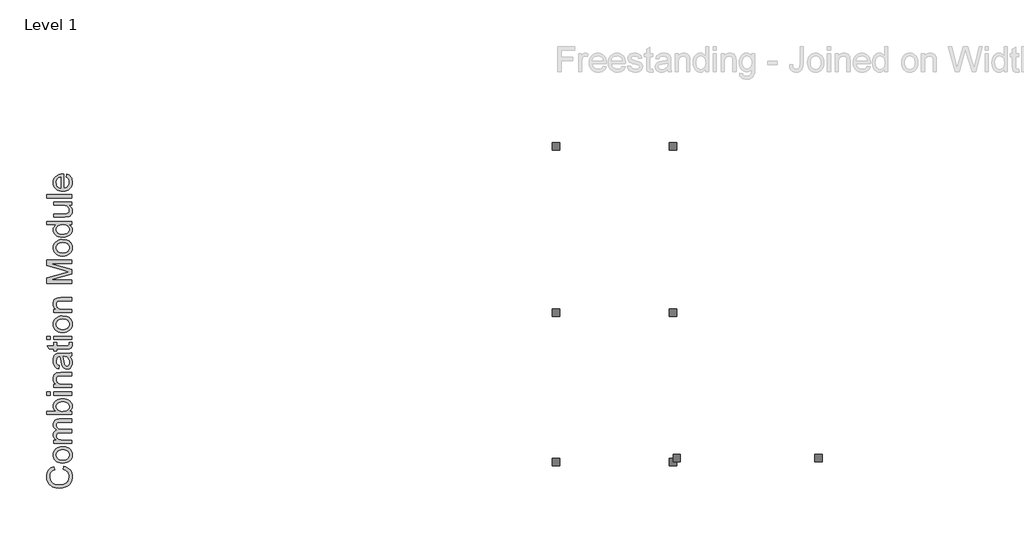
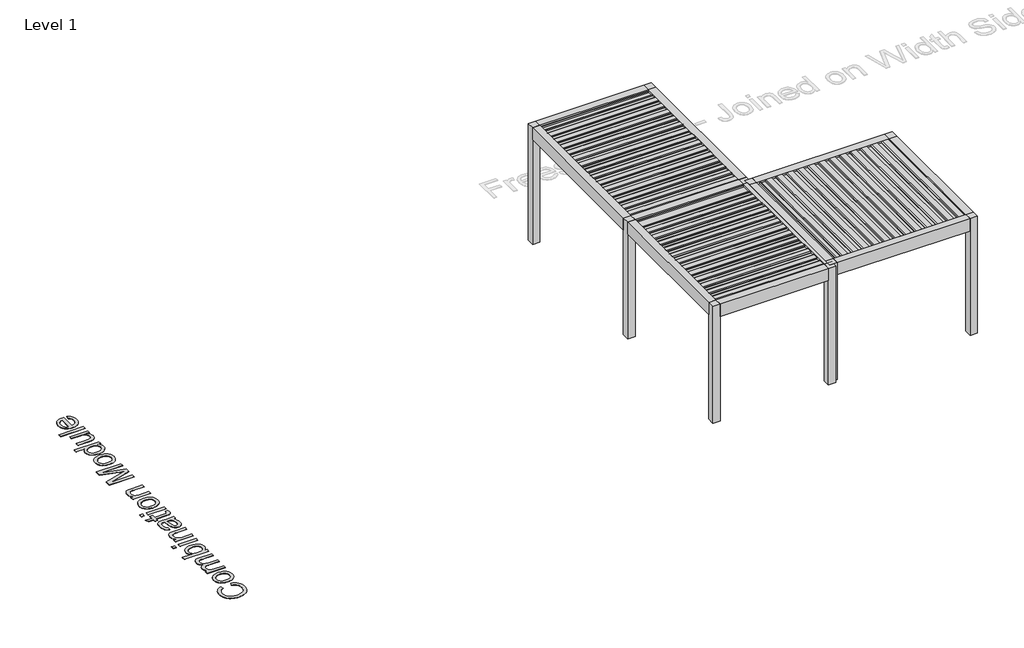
# One storey, part 7 of 69: 3 proxies.
"""IFC4 building model written with IfcOpenShell, lengths in millimetres."""

from ifc_helpers import new_model, si_unit, origin, origin_with_axes, place, context, project, spatial, polyline, outline, extrude, transform, mapped, element, save
from components import generic_models_5eb306d7, generic_models_66309c40

model = new_model("IFC4")

# Units and contexts
model_context = context("Model", 3, world=origin())
ifc_project = project(units=[si_unit("LENGTHUNIT", "METRE", prefix="MILLI")], contexts=[model_context])

# Site, building, storey
site = spatial("IfcSite", under=ifc_project)
building = spatial("IfcBuilding", under=site)
storey = spatial("IfcBuildingStorey", under=building, Name="Level 1", Elevation=0.0)

# Proxies
placement = place(None, origin())
generic_models_shape = generic_models_5eb306d7(model_context)
element("IfcBuildingElementProxy", 1, Name="Renson_Camargue_Freestanding_Patio covers : Renson_Camargue_Freestanding_Patio covers", ObjectType="Renson_Camargue_Freestanding_Patio covers : Renson_Camargue_Freestanding_Patio covers", at=placement, inside=storey, context=model_context, shape_type="MappedRepresentation", body=[
    mapped(generic_models_shape, transform((-5511.834943, -50906.4138599, 0.0), x_axis=(0.0, -1.0, 0.0), y_axis=(1.0, 0.0, 0.0), z_axis=(0.0, 0.0, 1.0))),
])
generic_models_2_shape = generic_models_66309c40(model_context)
element("IfcBuildingElementProxy", 2, Name="Renson_Camargue_Facade-Mounted_Patio covers : Renson_Camargue_Facade-Mounted_Patio covers", ObjectType="Renson_Camargue_Facade-Mounted_Patio covers : Renson_Camargue_Facade-Mounted_Patio covers", at=placement, inside=storey, context=model_context, shape_type="MappedRepresentation", body=[
    mapped(generic_models_2_shape, transform((-2836.834943, -54081.4138599, 0.0), x_axis=(1.0, 0.0, 0.0), y_axis=(0.0, 1.0, 0.0), z_axis=(0.0, 0.0, 1.0))),
])
element("IfcBuildingElementProxy", 3, Name="500mm Arial", ObjectType="500mm Arial", at=placement, inside=storey, context=model_context, shape_type="SweptSolid", body=[
    extrude(outline(polyline([(-16596.1954833, -55731.447711), (-16580.0086756, -55668.6625171), (-16540.9633667, -55681.0861987), (-16506.8461438, -55697.6332242), (-16477.6570067, -55718.3035938), (-16453.3959555, -55743.0973075), (-16434.3235734, -55771.4548779), (-16420.7004432, -55802.816818), (-16412.5265651, -55837.1831277), (-16409.8019391, -55874.5538071), (-16411.8636111, -55912.8403593), (-16418.0486272, -55947.3791137), (-16428.3569873, -55978.1700703), (-16442.7886914, -56005.213229), (-16461.1291417, -56028.8803041), (-16483.1637403, -56049.5430095), (-16508.8924874, -56067.2013452), (-16538.3153828, -56081.8553114), (-16570.160168, -56093.36312), (-16603.1545844, -56101.5829834), (-16637.2986321, -56106.5149013), (-16672.592311, -56108.158874), (-16710.4611639, -56106.3003035), (-16745.8314849, -56100.724592), (-16778.703274, -56091.4317395), (-16809.0765312, -56078.4217461), (-16836.4492509, -56061.9858515), (-16860.3194275, -56042.4152958), (-16880.6870608, -56019.7100789), (-16897.5521511, -55993.8702008), (-16910.7767424, -55965.7732135), (-16920.222879, -55936.2966686), (-16925.890561, -55905.4405663), (-16927.7797883, -55873.2049064), (-16925.3349059, -55837.2942588), (-16918.0002586, -55804.3649881), (-16905.7758465, -55774.4170944), (-16888.6616695, -55747.4505777), (-16867.109916, -55723.9099622), (-16841.5727741, -55704.2397717), (-16812.050244, -55688.4400065), (-16778.5423256, -55676.5106663), (-16763.5817911, -55739.2958602), (-16788.272038, -55749.1826888), (-16809.3677711, -55761.0622116), (-16826.8689906, -55774.9344285), (-16840.7756965, -55790.7993395), (-16851.3714643, -55808.7489152), (-16858.93987, -55828.875126), (-16863.4809134, -55851.177972), (-16864.9945945, -55875.6574531), (-16863.3161329, -55903.8234183), (-16858.2807481, -55929.5828222), (-16849.8884401, -55952.9356647), (-16838.1392088, -55973.8819458), (-16823.5618848, -55992.1572503), (-16806.6852982, -56007.4971631), (-16787.5094492, -56019.9016841), (-16766.0343378, -56029.3708134), (-16720.0797452, -56041.3729635), (-16672.7149383, -56045.3736802), (-16614.7122104, -56040.6371995), (-16564.5576318, -56026.4277574), (-16542.9024114, -56015.6365522), (-16524.1672544, -56002.2088594), (-16508.3521607, -55986.1446789), (-16495.4571303, -55967.4440109), (-16478.3046323, -55925.7660465), (-16472.587133, -55880.807801), (-16474.5338419, -55853.5117234), (-16480.3739685, -55828.3999451), (-16490.107513, -55805.4724662), (-16503.7344752, -55784.7292866), (-16521.1935416, -55766.6609157), (-16542.4233984, -55751.7578628), (-16567.4240456, -55740.0201279), (-16596.1954833, -55731.447711)])), origin_with_axes(), (0.0, 0.0, 1.0), 5.0),
    extrude(outline(polyline([(-16602.0815953, -55605.8773233), (-16649.8526052, -55602.482079), (-16691.0170676, -55592.2963463), (-16725.5749825, -55575.320125), (-16753.5263499, -55551.5534153), (-16771.3916193, -55527.6257572), (-16784.152526, -55501.2148956), (-16791.8090701, -55472.3208306), (-16794.3612514, -55440.9435621), (-16791.253415, -55406.305173), (-16781.9299057, -55374.985386), (-16766.3907235, -55346.9842013), (-16744.6358684, -55322.3016187), (-16717.4011044, -55302.1562473), (-16685.4221956, -55287.7666964), (-16648.6991418, -55279.1329658), (-16607.2319432, -55276.2550556), (-16543.8029559, -55281.3440899), (-16517.7676405, -55287.7053827), (-16495.518444, -55296.6111927), (-16476.3004419, -55307.9503887), (-16459.3587096, -55321.6118399), (-16444.6932471, -55337.5955462), (-16432.3040545, -55355.9015075), (-16415.427468, -55396.6291101), (-16409.8019391, -55440.9435621), (-16412.8982792, -55476.0877889), (-16422.1872996, -55507.6988158), (-16437.6690003, -55535.7766427), (-16459.3433811, -55560.3212695), (-16486.8425603, -55580.252043), (-16519.7986557, -55594.4883098), (-16558.2116673, -55603.0300699), (-16602.0815953, -55605.8773233)]), holes=[polyline([(-16602.2042226, -55543.0921294), (-16571.7504912, -55541.2757121), (-16545.3817828, -55535.82646), (-16523.0980973, -55526.7443733), (-16504.8994349, -55514.0294518), (-16490.7628028, -55498.5630796), (-16480.6652084, -55481.2266406), (-16474.6066518, -55462.0201347), (-16472.587133, -55440.9435621), (-16474.6181481, -55419.9742884), (-16480.7111937, -55400.8444246), (-16490.8662696, -55383.5539708), (-16505.0833759, -55368.1029271), (-16523.4621472, -55355.3880056), (-16546.1022183, -55346.3059188), (-16573.0035892, -55340.8566668), (-16604.1662599, -55339.0402494), (-16633.6543011, -55340.8681631), (-16659.3332308, -55346.3519041), (-16681.203049, -55355.4914724), (-16699.2637557, -55368.286868), (-16713.4003877, -55383.7953934), (-16723.4979821, -55401.0743509), (-16729.5565387, -55420.1237404), (-16731.5760576, -55440.9435621), (-16729.5642029, -55462.0201347), (-16723.5286389, -55481.2266406), (-16713.4693656, -55498.5630796), (-16699.386383, -55514.0294518), (-16681.24137, -55526.7443733), (-16658.9960056, -55535.82646), (-16632.6502898, -55541.2757121), (-16602.2042226, -55543.0921294)])]), origin_with_axes(), (0.0, 0.0, 1.0), 5.0),
    extrude(outline(polyline([(-16417.6500883, -55205.6217125), (-16786.5131022, -55205.6217125), (-16786.5131022, -55142.8365187), (-16725.812573, -55142.8365187), (-16753.6949625, -55123.9519096), (-16775.537956, -55099.6716979), (-16789.6554276, -55070.8236181), (-16794.3612514, -55038.2354047), (-16789.5634571, -55003.317272), (-16775.170074, -54975.3275835), (-16752.131464, -54954.4196235), (-16721.397989, -54940.746676), (-16753.3194163, -54917.8613502), (-16776.1204358, -54891.757057), (-16789.8010475, -54862.4337963), (-16794.3612514, -54829.8915681), (-16792.4643599, -54804.7567972), (-16786.7736853, -54782.6953738), (-16777.2892276, -54763.7072979), (-16764.0109868, -54747.7925695), (-16746.7856788, -54735.2117717), (-16725.4600194, -54726.2254876), (-16700.0340086, -54720.8337171), (-16670.5076464, -54719.0364602), (-16417.6500883, -54719.0364602), (-16417.6500883, -54781.8216541), (-16643.5296334, -54781.8216541), (-16674.8455882, -54783.2778536), (-16695.9528177, -54787.6464523), (-16710.4075144, -54795.8318267), (-16721.765871, -54808.7383534), (-16729.1235109, -54825.3390284), (-16731.5760576, -54844.6068479), (-16730.0048949, -54862.3993073), (-16725.2914068, -54878.6206041), (-16717.4355934, -54893.2707381), (-16706.4374546, -54906.3497094), (-16691.9750936, -54917.1064257), (-16673.7266138, -54924.7897944), (-16651.6920152, -54929.3998157), (-16625.8712976, -54930.9364895), (-16417.6500883, -54930.9364895), (-16417.6500883, -54993.7216833), (-16650.5193913, -54993.7216833), (-16686.0200038, -54997.354518), (-16711.3425478, -55008.2530221), (-16720.1947083, -55016.6798191), (-16726.5176801, -55027.4288711), (-16731.5760576, -55055.8937405), (-16728.2038059, -55080.0819817), (-16718.0870511, -55102.3694992), (-16701.4710476, -55120.763599), (-16678.6010503, -55133.2715868), (-16646.8712282, -55140.4452857), (-16603.6757506, -55142.8365187), (-16417.6500883, -55142.8365187), (-16417.6500883, -55205.6217125)])), origin_with_axes(), (0.0, 0.0, 1.0), 5.0),
    extrude(outline(polyline([(-16417.6500883, -54562.0734756), (-16417.6500883, -54624.8586695), (-16919.9316391, -54624.8586695), (-16919.9316391, -54562.0734756), (-16733.6607222, -54562.0734756), (-16760.2172037, -54541.4260986), (-16779.1861191, -54518.1115772), (-16790.5674683, -54492.1299113), (-16794.3612514, -54463.4811009), (-16790.9430145, -54431.1381422), (-16780.6883039, -54400.5732797), (-16764.2409131, -54373.5339531), (-16742.2446354, -54351.7676017), (-16714.9140689, -54334.7070742), (-16682.4638112, -54321.7852191), (-16646.2427631, -54313.64583), (-16607.5998252, -54310.9327002), (-16563.0094617, -54313.7416326), (-16523.784044, -54322.1684295), (-16489.923572, -54336.2130911), (-16461.4280458, -54355.8756173), (-16438.8416241, -54379.4775466), (-16422.7084658, -54405.3404173), (-16413.0285708, -54433.4642294), (-16409.8019391, -54463.8489829), (-16413.9636042, -54493.4404909), (-16426.4485994, -54519.6750757), (-16447.2569248, -54542.5527373), (-16476.3885802, -54562.0734756), (-16417.6500883, -54562.0734756)]), holes=[polyline([(-16604.6567692, -54562.0734756), (-16552.2948986, -54557.781519), (-16532.4599277, -54552.4165732), (-16516.8555997, -54544.9056492), (-16497.4881455, -54529.6921958), (-16483.6542497, -54512.0108674), (-16475.3539121, -54491.861664), (-16472.587133, -54469.2445855), (-16474.6258124, -54450.4672753), (-16480.7418505, -54433.008209), (-16490.9352475, -54416.8673864), (-16505.2060032, -54402.0448077), (-16523.5157967, -54389.651783), (-16545.8263068, -54380.7996225), (-16572.1375337, -54375.4883262), (-16602.4494773, -54373.7178941), (-16633.3362364, -54375.4155162), (-16659.9003822, -54380.5083826), (-16682.1419145, -54388.9964932), (-16700.0608333, -54400.8798481), (-16713.8487439, -54415.1697643), (-16723.6972515, -54430.8775591), (-16729.6063561, -54448.0032324), (-16731.5760576, -54466.5467842), (-16729.5373782, -54485.3240944), (-16723.42134, -54502.7831607), (-16713.2279431, -54518.9239833), (-16698.9571873, -54533.746562), (-16680.8313349, -54546.1395867), (-16659.0726477, -54554.9917472), (-16633.6811258, -54560.3030435), (-16604.6567692, -54562.0734756)])]), origin_with_axes(), (0.0, 0.0, 1.0), 5.0),
    extrude(outline(polyline([(-16417.6500883, -54240.2993572), (-16786.5131022, -54240.2993572), (-16786.5131022, -54177.5141633), (-16417.6500883, -54177.5141633), (-16417.6500883, -54240.2993572)])), origin_with_axes(), (0.0, 0.0, 1.0), 5.0),
    extrude(outline(polyline([(-16857.1464453, -54240.2993572), (-16919.9316391, -54240.2993572), (-16919.9316391, -54177.5141633), (-16857.1464453, -54177.5141633), (-16857.1464453, -54240.2993572)])), origin_with_axes(), (0.0, 0.0, 1.0), 5.0),
    extrude(outline(polyline([(-16417.6500883, -54083.3363726), (-16786.5131022, -54083.3363726), (-16786.5131022, -54020.5511787), (-16735.0096229, -54020.5511787), (-16760.9759603, -53998.7388421), (-16779.5233443, -53972.5425783), (-16790.6517746, -53941.9623875), (-16794.3612514, -53906.9982695), (-16791.3722102, -53876.0501967), (-16782.4050866, -53847.7079547), (-16768.5788549, -53824.0715365), (-16751.0124896, -53807.2409352), (-16729.751976, -53795.8212649), (-16704.8432993, -53788.4176398), (-16644.14277, -53785.1067018), (-16417.6500883, -53785.1067018), (-16417.6500883, -53847.8918956), (-16635.6814842, -53847.8918956), (-16668.1470702, -53849.7006488), (-16691.2316654, -53855.1269082), (-16707.7710268, -53865.1363642), (-16720.6009114, -53880.6947069), (-16728.832271, -53900.6369767), (-16731.5760576, -53923.798214), (-16730.0355517, -53942.862932), (-16725.4140341, -53960.5710851), (-16717.7115049, -53976.9226734), (-16706.9279639, -53991.9176968), (-16691.8371379, -54004.4448451), (-16671.2127535, -54013.3928082), (-16645.0548108, -54018.7615861), (-16613.3633098, -54020.5511787), (-16417.6500883, -54020.5511787), (-16417.6500883, -54083.3363726)])), origin_with_axes(), (0.0, 0.0, 1.0), 5.0),
    extrude(outline(polyline([(-16464.7389837, -53463.3325834), (-16439.0179009, -53493.3302944), (-16422.1872996, -53524.2170536), (-16412.8982792, -53556.6979681), (-16409.8019391, -53591.478145), (-16411.6643417, -53619.4333445), (-16417.2515495, -53643.9473146), (-16426.5635625, -53665.0200551), (-16439.6003807, -53682.6515661), (-16455.5342696, -53696.5736004), (-16473.5374948, -53706.5179106), (-16493.6100561, -53712.4844967), (-16515.7519537, -53714.4733587), (-16541.7796049, -53711.4689891), (-16565.4160231, -53702.4558802), (-16585.6495328, -53688.5530065), (-16601.4684586, -53670.8793423), (-16613.4246234, -53650.109338), (-16622.0698503, -53626.9174439), (-16631.5121549, -53572.5935359), (-16641.4449687, -53508.3981278), (-16653.0945653, -53463.7004654), (-16667.0740811, -53463.3325834), (-16695.0944264, -53467.6551968), (-16713.4272125, -53480.6230371), (-16721.3673322, -53493.6981764), (-16727.0388463, -53509.6244011), (-16731.5760576, -53550.0301069), (-16728.5563595, -53587.4314431), (-16719.4972654, -53613.5510647), (-16702.7433062, -53631.3626847), (-16676.639013, -53643.8400157), (-16684.4871622, -53706.6252095), (-16718.8228151, -53695.7267054), (-16745.800828, -53679.4632555), (-16766.4328766, -53656.3173467), (-16781.7306362, -53624.7714656), (-16791.2035976, -53586.1898413), (-16794.3612514, -53541.936703), (-16791.5714796, -53499.4923178), (-16783.2021642, -53465.8464437), (-16770.6175343, -53440.4779144), (-16755.1818189, -53422.8655639), (-16736.0979404, -53411.1853105), (-16712.5688211, -53403.6130728), (-16657.6317765, -53400.5473895), (-16579.5181662, -53400.5473895), (-16470.4411547, -53397.3590789), (-16443.4784701, -53392.6379266), (-16417.6500883, -53384.8510911), (-16417.6500883, -53447.6362849), (-16439.4777534, -53457.6917261), (-16464.7389837, -53463.3325834)]), holes=[polyline([(-16590.3093714, -53463.3325834), (-16579.8553914, -53505.5163855), (-16571.0568803, -53564.6227594), (-16560.8788118, -53618.640099), (-16553.9197107, -53632.6962569), (-16544.324122, -53643.1042517), (-16532.8278097, -53649.5421866), (-16520.1665377, -53651.6881649), (-16501.4965264, -53647.0129979), (-16486.1987668, -53632.9874968), (-16475.9900414, -53609.91823), (-16472.587133, -53578.1117659), (-16476.342595, -53544.3892496), (-16487.6089811, -53514.590808), (-16504.2096561, -53490.4332237), (-16523.967985, -53473.6332792), (-16544.324122, -53466.1836688), (-16572.5284083, -53463.7004654), (-16590.3093714, -53463.3325834)])]), origin_with_axes(), (0.0, 0.0, 1.0), 5.0),
    extrude(outline(polyline([(-16470.011959, -53180.7992111), (-16415.8106784, -53172.9510618), (-16409.8019391, -53219.9173299), (-16412.4077699, -53250.0529967), (-16420.2252623, -53272.5244552), (-16432.2733977, -53288.4046947), (-16447.5711573, -53298.7667042), (-16473.8440631, -53304.4688751), (-16518.817637, -53306.3695987), (-16723.7279083, -53306.3695987), (-16723.7279083, -53353.4584941), (-16786.5131022, -53353.4584941), (-16786.5131022, -53306.3695987), (-16876.1536817, -53306.3695987), (-16913.0645085, -53243.5844049), (-16786.5131022, -53243.5844049), (-16786.5131022, -53180.7992111), (-16723.7279083, -53180.7992111), (-16723.7279083, -53243.5844049), (-16520.657047, -53243.5844049), (-16488.2834314, -53240.2734669), (-16476.8177759, -53229.5435754), (-16472.587133, -53208.145106), (-16470.011959, -53180.7992111)])), origin_with_axes(), (0.0, 0.0, 1.0), 5.0),
    extrude(outline(polyline([(-16417.6500883, -53118.0140172), (-16786.5131022, -53118.0140172), (-16786.5131022, -53055.2288234), (-16417.6500883, -53055.2288234), (-16417.6500883, -53118.0140172)])), origin_with_axes(), (0.0, 0.0, 1.0), 5.0),
    extrude(outline(polyline([(-16857.1464453, -53118.0140172), (-16919.9316391, -53118.0140172), (-16919.9316391, -53055.2288234), (-16857.1464453, -53055.2288234), (-16857.1464453, -53118.0140172)])), origin_with_axes(), (0.0, 0.0, 1.0), 5.0),
    extrude(outline(polyline([(-16602.0815953, -52976.7473311), (-16649.8526052, -52973.3520868), (-16691.0170676, -52963.1663541), (-16725.5749825, -52946.1901328), (-16753.5263499, -52922.4234231), (-16771.3916193, -52898.495765), (-16784.152526, -52872.0849034), (-16791.8090701, -52843.1908384), (-16794.3612514, -52811.8135699), (-16791.253415, -52777.1751808), (-16781.9299057, -52745.8553938), (-16766.3907235, -52717.8542091), (-16744.6358684, -52693.1716265), (-16717.4011044, -52673.0262551), (-16685.4221956, -52658.6367042), (-16648.6991418, -52650.0029736), (-16607.2319432, -52647.1250634), (-16543.8029559, -52652.2140977), (-16517.7676405, -52658.5753905), (-16495.518444, -52667.4812005), (-16476.3004419, -52678.8203965), (-16459.3587096, -52692.4818477), (-16444.6932471, -52708.465554), (-16432.3040545, -52726.7715153), (-16415.427468, -52767.4991179), (-16409.8019391, -52811.8135699), (-16412.8982792, -52846.9577968), (-16422.1872996, -52878.5688236), (-16437.6690003, -52906.6466505), (-16459.3433811, -52931.1912773), (-16486.8425603, -52951.1220508), (-16519.7986557, -52965.3583176), (-16558.2116673, -52973.9000777), (-16602.0815953, -52976.7473311)]), holes=[polyline([(-16602.2042226, -52913.9621372), (-16571.7504912, -52912.1457199), (-16545.3817828, -52906.6964678), (-16523.0980973, -52897.6143811), (-16504.8994349, -52884.8994596), (-16490.7628028, -52869.4330874), (-16480.6652084, -52852.0966484), (-16474.6066518, -52832.8901425), (-16472.587133, -52811.8135699), (-16474.6181481, -52790.8442962), (-16480.7111937, -52771.7144324), (-16490.8662696, -52754.4239787), (-16505.0833759, -52738.9729349), (-16523.4621472, -52726.2580134), (-16546.1022183, -52717.1759266), (-16573.0035892, -52711.7266746), (-16604.1662599, -52709.9102572), (-16633.6543011, -52711.7381709), (-16659.3332308, -52717.2219119), (-16681.203049, -52726.3614802), (-16699.2637557, -52739.1568759), (-16713.4003877, -52754.6654012), (-16723.4979821, -52771.9443587), (-16729.5565387, -52790.9937482), (-16731.5760576, -52811.8135699), (-16729.5642029, -52832.8901425), (-16723.5286389, -52852.0966484), (-16713.4693656, -52869.4330874), (-16699.386383, -52884.8994596), (-16681.24137, -52897.6143811), (-16658.9960056, -52906.6964678), (-16632.6502898, -52912.1457199), (-16602.2042226, -52913.9621372)])]), origin_with_axes(), (0.0, 0.0, 1.0), 5.0),
    extrude(outline(polyline([(-16417.6500883, -52576.4917203), (-16786.5131022, -52576.4917203), (-16786.5131022, -52513.7065265), (-16735.0096229, -52513.7065265), (-16760.9759603, -52491.8941898), (-16779.5233443, -52465.6979261), (-16790.6517746, -52435.1177353), (-16794.3612514, -52400.1536173), (-16791.3722102, -52369.2055445), (-16782.4050866, -52340.8633024), (-16768.5788549, -52317.2268842), (-16751.0124896, -52300.3962829), (-16729.751976, -52288.9766127), (-16704.8432993, -52281.5729875), (-16644.14277, -52278.2620496), (-16417.6500883, -52278.2620496), (-16417.6500883, -52341.0472434), (-16635.6814842, -52341.0472434), (-16668.1470702, -52342.8559965), (-16691.2316654, -52348.282256), (-16707.7710268, -52358.2917119), (-16720.6009114, -52373.8500546), (-16728.832271, -52393.7923245), (-16731.5760576, -52416.9535617), (-16730.0355517, -52436.0182797), (-16725.4140341, -52453.7264328), (-16717.7115049, -52470.0780211), (-16706.9279639, -52485.0730445), (-16691.8371379, -52497.6001929), (-16671.2127535, -52506.548156), (-16645.0548108, -52511.9169339), (-16613.3633098, -52513.7065265), (-16417.6500883, -52513.7065265), (-16417.6500883, -52576.4917203)])), origin_with_axes(), (0.0, 0.0, 1.0), 5.0),
    extrude(outline(polyline([(-16417.6500883, -51987.880528), (-16919.9316391, -51987.880528), (-16919.9316391, -51879.8458488), (-16565.9065324, -51777.0841448), (-16491.9622514, -51756.3601257), (-16572.037899, -51733.919324), (-16919.9316391, -51632.8744027), (-16919.9316391, -51524.8397234), (-16417.6500883, -51524.8397234), (-16417.6500883, -51587.6249173), (-16857.1464453, -51587.6249173), (-16417.6500883, -51713.8084416), (-16417.6500883, -51798.9118098), (-16857.1464453, -51925.0953342), (-16417.6500883, -51925.0953342), (-16417.6500883, -51987.880528)])), origin_with_axes(), (0.0, 0.0, 1.0), 5.0),
    extrude(outline(polyline([(-16602.0815953, -51438.5100819), (-16649.8526052, -51435.1148377), (-16691.0170676, -51424.9291049), (-16725.5749825, -51407.9528837), (-16753.5263499, -51384.186174), (-16771.3916193, -51360.2585158), (-16784.152526, -51333.8476543), (-16791.8090701, -51304.9535892), (-16794.3612514, -51273.5763207), (-16791.253415, -51238.9379316), (-16781.9299057, -51207.6181447), (-16766.3907235, -51179.6169599), (-16744.6358684, -51154.9343773), (-16717.4011044, -51134.7890059), (-16685.4221956, -51120.399455), (-16648.6991418, -51111.7657244), (-16607.2319432, -51108.8878142), (-16543.8029559, -51113.9768485), (-16517.7676405, -51120.3381413), (-16495.518444, -51129.2439513), (-16476.3004419, -51140.5831474), (-16459.3587096, -51154.2445985), (-16444.6932471, -51170.2283048), (-16432.3040545, -51188.5342662), (-16415.427468, -51229.2618687), (-16409.8019391, -51273.5763207), (-16412.8982792, -51308.7205476), (-16422.1872996, -51340.3315744), (-16437.6690003, -51368.4094013), (-16459.3433811, -51392.9540282), (-16486.8425603, -51412.8848017), (-16519.7986557, -51427.1210685), (-16558.2116673, -51435.6628285), (-16602.0815953, -51438.5100819)]), holes=[polyline([(-16602.2042226, -51375.7248881), (-16571.7504912, -51373.9084707), (-16545.3817828, -51368.4592187), (-16523.0980973, -51359.3771319), (-16504.8994349, -51346.6622104), (-16490.7628028, -51331.1958382), (-16480.6652084, -51313.8593992), (-16474.6066518, -51294.6528934), (-16472.587133, -51273.5763207), (-16474.6181481, -51252.607047), (-16480.7111937, -51233.4771833), (-16490.8662696, -51216.1867295), (-16505.0833759, -51200.7356857), (-16523.4621472, -51188.0207642), (-16546.1022183, -51178.9386775), (-16573.0035892, -51173.4894254), (-16604.1662599, -51171.6730081), (-16633.6543011, -51173.5009217), (-16659.3332308, -51178.9846627), (-16681.203049, -51188.124231), (-16699.2637557, -51200.9196267), (-16713.4003877, -51216.428152), (-16723.4979821, -51233.7071095), (-16729.5565387, -51252.7564991), (-16731.5760576, -51273.5763207), (-16729.5642029, -51294.6528934), (-16723.5286389, -51313.8593992), (-16713.4693656, -51331.1958382), (-16699.386383, -51346.6622104), (-16681.24137, -51359.3771319), (-16658.9960056, -51368.4592187), (-16632.6502898, -51373.9084707), (-16602.2042226, -51375.7248881)])]), origin_with_axes(), (0.0, 0.0, 1.0), 5.0),
    extrude(outline(polyline([(-16417.6500883, -50810.6581435), (-16476.8790896, -50810.6581435), (-16447.5328362, -50829.4431178), (-16426.5712267, -50852.1981521), (-16413.994261, -50878.9232462), (-16409.8019391, -50909.6184002), (-16415.871992, -50950.208047), (-16434.0821508, -50987.3641285), (-16463.1601568, -51018.8180391), (-16501.8337516, -51042.3011731), (-16548.5394365, -51056.9244824), (-16601.7137133, -51061.7989188), (-16654.2288681, -51057.3076928), (-16701.6549886, -51043.8340147), (-16722.7852107, -51033.7325883), (-16741.2942736, -51021.393213), (-16757.1821773, -51006.815889), (-16770.4489217, -50990.0006161), (-16788.383169, -50952.0321285), (-16794.3612514, -50909.8636548), (-16790.0846232, -50879.1455082), (-16777.2547386, -50851.9835543), (-16757.5883803, -50828.9602727), (-16732.8023309, -50810.6581435), (-16919.9316391, -50810.6581435), (-16919.9316391, -50747.8729496), (-16417.6500883, -50747.8729496), (-16417.6500883, -50810.6581435)]), holes=[polyline([(-16601.9589679, -50999.013725), (-16571.5129007, -50997.2432929), (-16545.1671849, -50991.9319966), (-16522.9218205, -50983.0798361), (-16504.7768075, -50970.6868114), (-16490.6938249, -50955.8872253), (-16480.6345516, -50939.8153806), (-16474.5989876, -50922.4712774), (-16472.587133, -50903.8549156), (-16474.5070171, -50885.1504154), (-16480.2666696, -50867.909779), (-16489.8660904, -50852.1330063), (-16503.3052796, -50837.8200974), (-16520.6915359, -50825.9367426), (-16542.1321585, -50817.448632), (-16567.6271472, -50812.3557656), (-16597.176502, -50810.6581435), (-16629.5731102, -50812.3864224), (-16657.355865, -50817.5712593), (-16680.5247665, -50826.2126541), (-16699.0798147, -50838.3106068), (-16713.2969209, -50852.9377482), (-16723.4519968, -50869.1667091), (-16729.5450424, -50886.9974896), (-16731.5760576, -50906.4300895), (-16729.6255166, -50925.4143333), (-16723.7738936, -50942.7584366), (-16714.0211886, -50958.4623992), (-16700.3674016, -50972.5262213), (-16682.5136286, -50984.1145042), (-16660.1609653, -50992.3918491), (-16633.3094117, -50997.358256), (-16601.9589679, -50999.013725)])]), origin_with_axes(), (0.0, 0.0, 1.0), 5.0),
    extrude(outline(polyline([(-16417.6500883, -50418.2506819), (-16481.0484189, -50418.2506819), (-16449.878084, -50440.9673952), (-16427.6135591, -50467.424242), (-16414.2548441, -50497.6212224), (-16409.8019391, -50531.5583365), (-16412.9289361, -50562.1385273), (-16422.309927, -50590.6033967), (-16436.4120701, -50614.4850695), (-16453.7025239, -50631.3156708), (-16474.7024544, -50642.6433706), (-16499.9330279, -50650.0163389), (-16558.3036378, -50653.6951589), (-16786.5131022, -50653.6951589), (-16786.5131022, -50590.909965), (-16587.8568248, -50590.909965), (-16523.8453576, -50587.1085177), (-16502.4928735, -50577.9574531), (-16486.2600804, -50562.2764831), (-16476.0053698, -50541.1079399), (-16472.587133, -50515.494156), (-16476.0820119, -50488.4088441), (-16486.5666488, -50463.0709717), (-16503.0753533, -50442.1783401), (-16524.6424353, -50428.4287505), (-16554.1802938, -50420.7951991), (-16594.601328, -50418.2506819), (-16786.5131022, -50418.2506819), (-16786.5131022, -50355.4654881), (-16417.6500883, -50355.4654881), (-16417.6500883, -50418.2506819)])), origin_with_axes(), (0.0, 0.0, 1.0), 5.0),
    extrude(outline(polyline([(-16417.6500883, -50269.1358466), (-16919.9316391, -50269.1358466), (-16919.9316391, -50206.3506527), (-16417.6500883, -50206.3506527), (-16417.6500883, -50269.1358466)])), origin_with_axes(), (0.0, 0.0, 1.0), 5.0),
    extrude(outline(polyline([(-16527.5241776, -49853.9197013), (-16519.6760283, -49792.3607808), (-16495.0202705, -49801.7992533), (-16473.2922401, -49814.5409994), (-16454.4919373, -49830.5860194), (-16438.6193621, -49849.9343131), (-16426.0117395, -49872.3866111), (-16417.0062949, -49897.743644), (-16411.6030281, -49926.0054119), (-16409.8019391, -49957.1719147), (-16412.9097756, -49996.1290851), (-16422.2332849, -50030.8402842), (-16437.7724671, -50061.3055119), (-16459.5273221, -50087.5247683), (-16486.8923776, -50108.6090051), (-16519.2621611, -50123.6691743), (-16556.6366725, -50132.7052758), (-16599.015912, -50135.7173097), (-16642.8321904, -50132.674619), (-16681.4521357, -50123.546547), (-16714.8757478, -50108.3330936), (-16743.1030267, -50087.034259), (-16765.5285, -50060.8839805), (-16781.5466952, -50031.1161957), (-16791.1576124, -49997.7309046), (-16794.3612514, -49960.7281073), (-16791.1652766, -49924.9170943), (-16781.5773521, -49892.5319824), (-16765.5974779, -49863.5727716), (-16743.2256541, -49838.0394619), (-16715.0596888, -49817.1966476), (-16681.6973904, -49802.3089231), (-16643.1387588, -49793.3762884), (-16599.383794, -49790.3987435), (-16582.4612222, -49790.7666255), (-16582.4612222, -50072.9321158), (-16557.4069255, -50069.295449), (-16535.4642973, -50062.0642685), (-16516.6333377, -50051.2385744), (-16500.9140466, -50036.8183666), (-16488.5210219, -50019.6007228), (-16479.6688614, -50000.3827207), (-16474.3575651, -49979.1643602), (-16472.587133, -49955.9456413), (-16475.8674141, -49922.5296934), (-16485.7082575, -49894.3867208), (-16502.7227997, -49871.5167234), (-16527.5241776, -49853.9197013)]), holes=[polyline([(-16645.246416, -50072.9321158), (-16645.246416, -49853.1839374), (-16678.4171093, -49861.6758801), (-16702.145498, -49878.3225404), (-16715.0213678, -49895.4443816), (-16724.2184177, -49914.9267989), (-16729.7366476, -49936.7697923), (-16731.5760576, -49960.9733619), (-16725.7052741, -50003.2951198), (-16718.3667947, -50021.7083801), (-16708.0929235, -50038.2898946), (-16695.3588416, -50052.2042646), (-16680.6397297, -50062.6160915), (-16663.9355878, -50069.5253752), (-16645.246416, -50072.9321158)])]), origin_with_axes(), (0.0, 0.0, 1.0), 5.0),
])

save(model, "model.ifc")
